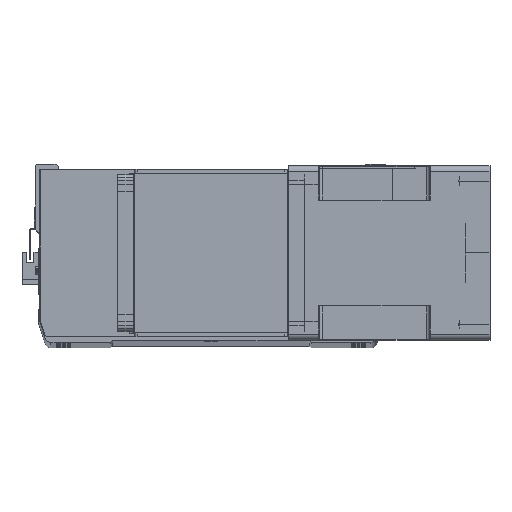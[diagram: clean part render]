
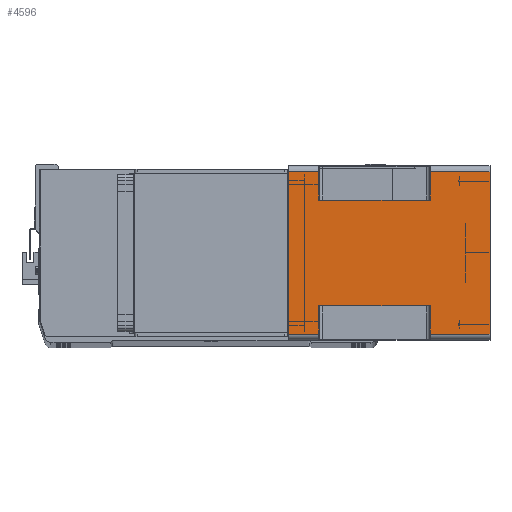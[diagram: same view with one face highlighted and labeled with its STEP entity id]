
A CAD part, top view. The second image highlights one B-rep face of the part: STEP entity #4596.
In plain terms, the highlighted planar face has unit normal (0, 0, 1) as drawn and (1, 0, 0) by its records, which use the part's own axes.
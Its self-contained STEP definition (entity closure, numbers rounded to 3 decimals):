
#61 = VERTEX_POINT ( 'NONE', #2733 ) ;
#216 = CARTESIAN_POINT ( 'NONE',  ( 71., 43., -164. ) ) ;
#976 = LINE ( 'NONE', #2058, #32158 ) ;
#1307 = CARTESIAN_POINT ( 'NONE',  ( 71., -66., -164. ) ) ;
#1320 = EDGE_CURVE ( 'NONE', #13650, #32508, #18744, .T. ) ;
#1715 = LINE ( 'NONE', #1307, #26864 ) ;
#2058 = CARTESIAN_POINT ( 'NONE',  ( 71., -43., -24.5 ) ) ;
#2156 = ORIENTED_EDGE ( 'NONE', *, *, #18616, .T. ) ;
#2282 = CARTESIAN_POINT ( 'NONE',  ( 71., -43., -115.5 ) ) ;
#2286 = CARTESIAN_POINT ( 'NONE',  ( 71., -43., -24.5 ) ) ;
#2733 = CARTESIAN_POINT ( 'NONE',  ( 71., -66., 0. ) ) ;
#2870 = EDGE_LOOP ( 'NONE', ( #14308, #5921, #31688, #2156, #30323, #26771, #8375, #21714, #11195, #23916, #6667, #27974 ) ) ;
#3674 = CARTESIAN_POINT ( 'NONE',  ( 71., -66., -164. ) ) ;
#3818 = EDGE_CURVE ( 'NONE', #23758, #30651, #14114, .T. ) ;
#4466 = CARTESIAN_POINT ( 'NONE',  ( 71., 66., -164. ) ) ;
#4562 = VECTOR ( 'NONE', #9690, 1000. ) ;
#4596 = ADVANCED_FACE ( 'NONE', ( #30222 ), #20528, .T. ) ;
#4986 = CARTESIAN_POINT ( 'NONE',  ( 71., -66., -115.5 ) ) ;
#5018 = DIRECTION ( 'NONE',  ( 1., 0., 0. ) ) ;
#5423 = VERTEX_POINT ( 'NONE', #26473 ) ;
#5556 = DIRECTION ( 'NONE',  ( 0., 0., 1. ) ) ;
#5720 = VERTEX_POINT ( 'NONE', #15700 ) ;
#5899 = VECTOR ( 'NONE', #26769, 1000. ) ;
#5921 = ORIENTED_EDGE ( 'NONE', *, *, #13467, .T. ) ;
#6106 = DIRECTION ( 'NONE',  ( 0., 0., 1. ) ) ;
#6667 = ORIENTED_EDGE ( 'NONE', *, *, #17025, .F. ) ;
#7388 = VECTOR ( 'NONE', #28804, 1000. ) ;
#8204 = VECTOR ( 'NONE', #33062, 1000. ) ;
#8375 = ORIENTED_EDGE ( 'NONE', *, *, #32892, .F. ) ;
#8716 = EDGE_CURVE ( 'NONE', #5720, #29782, #976, .T. ) ;
#9690 = DIRECTION ( 'NONE',  ( 0., 0., 1. ) ) ;
#9830 = DIRECTION ( 'NONE',  ( 0., 1., 0. ) ) ;
#9959 = VECTOR ( 'NONE', #29336, 1000. ) ;
#10244 = CARTESIAN_POINT ( 'NONE',  ( 71., -66., -164. ) ) ;
#11195 = ORIENTED_EDGE ( 'NONE', *, *, #22998, .T. ) ;
#11464 = CARTESIAN_POINT ( 'NONE',  ( 71., 66., -164. ) ) ;
#11570 = DIRECTION ( 'NONE',  ( 0., 0., 1. ) ) ;
#11698 = VECTOR ( 'NONE', #18350, 1000. ) ;
#12104 = CARTESIAN_POINT ( 'NONE',  ( 71., 43., -24.5 ) ) ;
#12166 = VERTEX_POINT ( 'NONE', #4986 ) ;
#13270 = DIRECTION ( 'NONE',  ( 0., 1., 0. ) ) ;
#13467 = EDGE_CURVE ( 'NONE', #26643, #12166, #30197, .T. ) ;
#13650 = VERTEX_POINT ( 'NONE', #17582 ) ;
#14114 = LINE ( 'NONE', #15250, #29879 ) ;
#14308 = ORIENTED_EDGE ( 'NONE', *, *, #16840, .F. ) ;
#15250 = CARTESIAN_POINT ( 'NONE',  ( 71., -66., -24.5 ) ) ;
#15575 = EDGE_CURVE ( 'NONE', #61, #33305, #21709, .T. ) ;
#15700 = CARTESIAN_POINT ( 'NONE',  ( 71., -66., -24.5 ) ) ;
#16548 = CARTESIAN_POINT ( 'NONE',  ( 71., 66., -24.5 ) ) ;
#16781 = EDGE_CURVE ( 'NONE', #5423, #13650, #30070, .T. ) ;
#16840 = EDGE_CURVE ( 'NONE', #26643, #29782, #21978, .T. ) ;
#17025 = EDGE_CURVE ( 'NONE', #5720, #61, #1715, .T. ) ;
#17387 = DIRECTION ( 'NONE',  ( 0., 1., 0. ) ) ;
#17582 = CARTESIAN_POINT ( 'NONE',  ( 71., 66., -115.5 ) ) ;
#17957 = CARTESIAN_POINT ( 'NONE',  ( 71., 66., 0. ) ) ;
#18350 = DIRECTION ( 'NONE',  ( 0., 0., -1. ) ) ;
#18616 = EDGE_CURVE ( 'NONE', #26012, #5423, #19770, .T. ) ;
#18744 = LINE ( 'NONE', #23589, #7388 ) ;
#19770 = LINE ( 'NONE', #28757, #30278 ) ;
#20068 = AXIS2_PLACEMENT_3D ( 'NONE', #10244, #5018, #23126 ) ;
#20528 = PLANE ( 'NONE',  #20068 ) ;
#20962 = CARTESIAN_POINT ( 'NONE',  ( 71., -66., -164. ) ) ;
#21709 = LINE ( 'NONE', #26856, #9959 ) ;
#21714 = ORIENTED_EDGE ( 'NONE', *, *, #3818, .T. ) ;
#21978 = LINE ( 'NONE', #25727, #8204 ) ;
#22998 = EDGE_CURVE ( 'NONE', #30651, #33305, #31727, .T. ) ;
#23126 = DIRECTION ( 'NONE',  ( 0., 1., 0. ) ) ;
#23589 = CARTESIAN_POINT ( 'NONE',  ( 71., 43., -115.5 ) ) ;
#23758 = VERTEX_POINT ( 'NONE', #12104 ) ;
#23916 = ORIENTED_EDGE ( 'NONE', *, *, #15575, .F. ) ;
#24153 = CARTESIAN_POINT ( 'NONE',  ( 71., -66., -115.5 ) ) ;
#24257 = CARTESIAN_POINT ( 'NONE',  ( 71., 43., -115.5 ) ) ;
#25727 = CARTESIAN_POINT ( 'NONE',  ( 71., -43., -164. ) ) ;
#26012 = VERTEX_POINT ( 'NONE', #3674 ) ;
#26140 = LINE ( 'NONE', #20962, #31368 ) ;
#26473 = CARTESIAN_POINT ( 'NONE',  ( 71., 66., -164. ) ) ;
#26643 = VERTEX_POINT ( 'NONE', #2282 ) ;
#26769 = DIRECTION ( 'NONE',  ( 0., -1., 0. ) ) ;
#26771 = ORIENTED_EDGE ( 'NONE', *, *, #1320, .T. ) ;
#26856 = CARTESIAN_POINT ( 'NONE',  ( 71., -66., 0. ) ) ;
#26864 = VECTOR ( 'NONE', #6106, 1000. ) ;
#27974 = ORIENTED_EDGE ( 'NONE', *, *, #8716, .T. ) ;
#28757 = CARTESIAN_POINT ( 'NONE',  ( 71., -66., -164. ) ) ;
#28804 = DIRECTION ( 'NONE',  ( 0., -1., 0. ) ) ;
#29336 = DIRECTION ( 'NONE',  ( 0., 1., 0. ) ) ;
#29752 = VECTOR ( 'NONE', #11570, 1000. ) ;
#29782 = VERTEX_POINT ( 'NONE', #2286 ) ;
#29879 = VECTOR ( 'NONE', #9830, 1000. ) ;
#30070 = LINE ( 'NONE', #4466, #4562 ) ;
#30197 = LINE ( 'NONE', #24153, #5899 ) ;
#30222 = FACE_OUTER_BOUND ( 'NONE', #2870, .T. ) ;
#30278 = VECTOR ( 'NONE', #13270, 1000. ) ;
#30323 = ORIENTED_EDGE ( 'NONE', *, *, #16781, .T. ) ;
#30442 = EDGE_CURVE ( 'NONE', #26012, #12166, #26140, .T. ) ;
#30651 = VERTEX_POINT ( 'NONE', #16548 ) ;
#31368 = VECTOR ( 'NONE', #5556, 1000. ) ;
#31477 = LINE ( 'NONE', #216, #11698 ) ;
#31688 = ORIENTED_EDGE ( 'NONE', *, *, #30442, .F. ) ;
#31727 = LINE ( 'NONE', #11464, #29752 ) ;
#32158 = VECTOR ( 'NONE', #17387, 1000. ) ;
#32508 = VERTEX_POINT ( 'NONE', #24257 ) ;
#32892 = EDGE_CURVE ( 'NONE', #23758, #32508, #31477, .T. ) ;
#33062 = DIRECTION ( 'NONE',  ( 0., 0., 1. ) ) ;
#33305 = VERTEX_POINT ( 'NONE', #17957 ) ;
